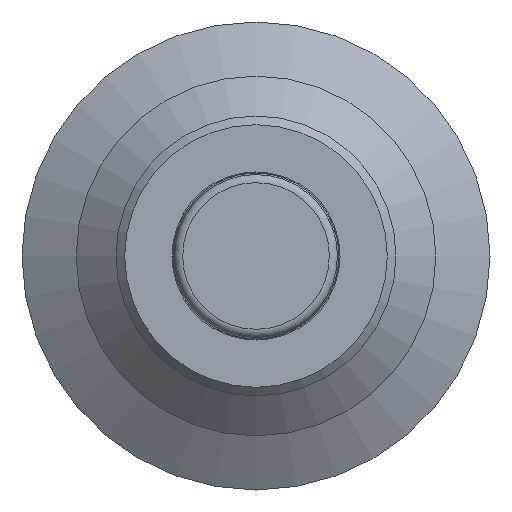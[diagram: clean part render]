
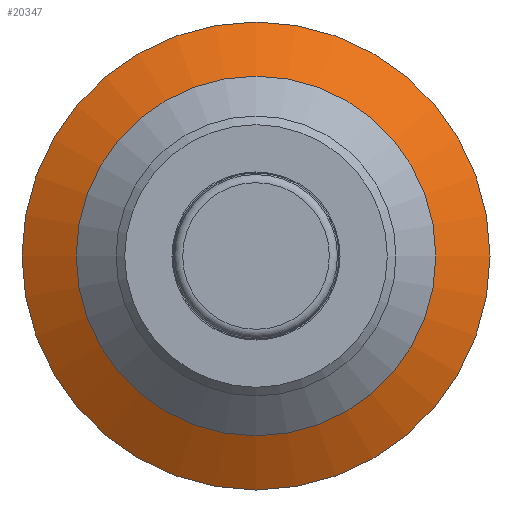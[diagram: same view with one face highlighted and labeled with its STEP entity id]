
A CAD part, front view. The second image highlights one B-rep face of the part: STEP entity #20347.
In plain terms, the highlighted conical face has half-angle 60 degrees and reference radius 11.938 mm.
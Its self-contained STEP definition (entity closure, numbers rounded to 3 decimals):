
#757=CONICAL_SURFACE('',#21533,11.938,1.047);
#1130=FACE_OUTER_BOUND('',#2243,.T.);
#2243=EDGE_LOOP('',(#13346,#13347,#13348,#13349));
#4926=CIRCLE('',#21534,13.5);
#4927=CIRCLE('',#21535,10.375);
#5292=LINE('',#26975,#6513);
#6513=VECTOR('',#22416,11.938);
#8125=VERTEX_POINT('',#26972);
#8126=VERTEX_POINT('',#26974);
#10207=EDGE_CURVE('',#8125,#8125,#4926,.T.);
#10208=EDGE_CURVE('',#8125,#8126,#5292,.T.);
#10209=EDGE_CURVE('',#8126,#8126,#4927,.T.);
#13346=ORIENTED_EDGE('',*,*,#10207,.F.);
#13347=ORIENTED_EDGE('',*,*,#10208,.T.);
#13348=ORIENTED_EDGE('',*,*,#10209,.T.);
#13349=ORIENTED_EDGE('',*,*,#10208,.F.);
#20347=ADVANCED_FACE('',(#1130),#757,.T.);
#21533=AXIS2_PLACEMENT_3D('',#26971,#22412,#22413);
#21534=AXIS2_PLACEMENT_3D('',#26973,#22414,#22415);
#21535=AXIS2_PLACEMENT_3D('',#26976,#22417,#22418);
#22412=DIRECTION('center_axis',(0.,1.,0.));
#22413=DIRECTION('ref_axis',(-1.,0.,0.));
#22414=DIRECTION('center_axis',(0.,1.,0.));
#22415=DIRECTION('ref_axis',(1.,0.,0.));
#22416=DIRECTION('',(-0.866,-0.5,0.));
#22417=DIRECTION('center_axis',(0.,1.,0.));
#22418=DIRECTION('ref_axis',(1.,0.,0.));
#26971=CARTESIAN_POINT('Origin',(0.,1.902,0.));
#26972=CARTESIAN_POINT('',(13.5,2.804,0.));
#26973=CARTESIAN_POINT('Origin',(0.,2.804,0.));
#26974=CARTESIAN_POINT('',(10.375,1.,0.));
#26975=CARTESIAN_POINT('',(11.938,1.902,0.));
#26976=CARTESIAN_POINT('Origin',(0.,1.,0.));
